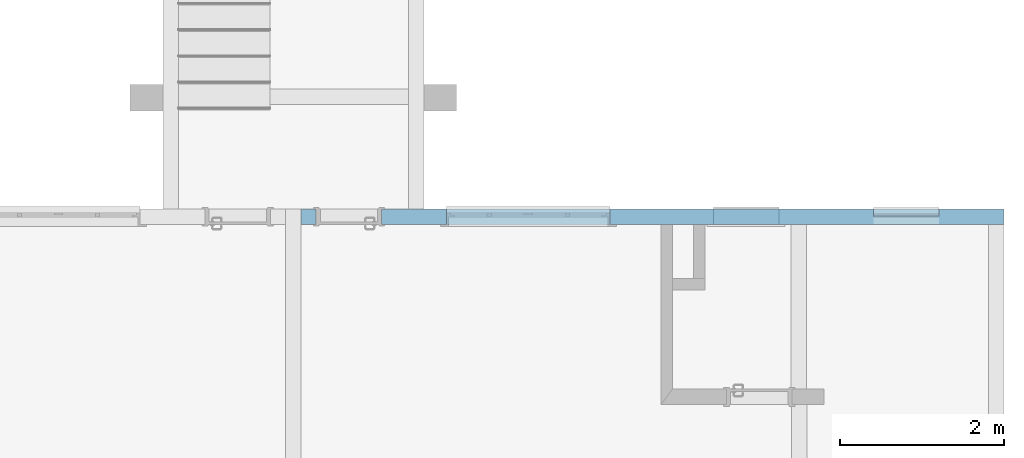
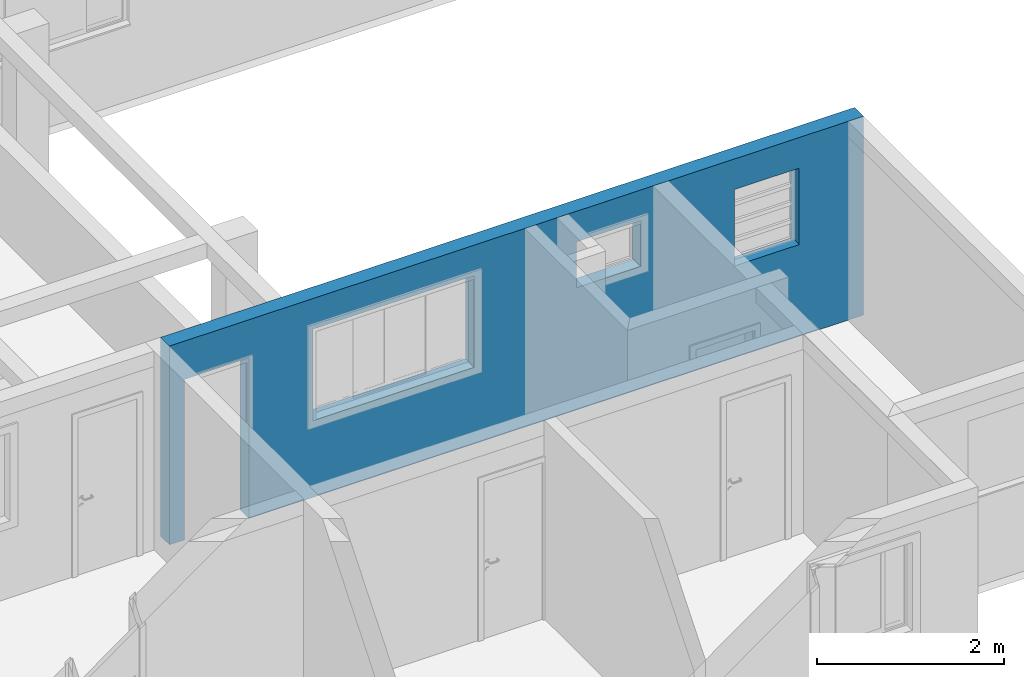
# One storey, part 19 of 43: 1 wall, 4 openings.
"""IFC2X3 building model written with IfcOpenShell, lengths in millimetres."""

from ifc_helpers import new_model, entity, si_unit, converted_unit, derived_unit, money_unit, direction, frame, origin_with_axes, origin_2d_with_axis, place, context, subcontext, project, spatial, polyline, rectangle, outline, extrude, material, layer, layer_set, layer_usage, type_object, element, save


model = new_model("IFC2X3")

# Units and contexts
model_context = context("Model", 3, precision=0.01, world=origin_with_axes(), true_north=direction((0.0, 1.0)))
body_context = subcontext(model_context, "Body", "Model", "MODEL_VIEW")
ifc_project = project(units=[si_unit("LENGTHUNIT", "METRE", prefix="MILLI"), si_unit("AREAUNIT", "SQUARE_METRE"), si_unit("VOLUMEUNIT", "CUBIC_METRE"), converted_unit("PLANEANGLEUNIT", "DEGREE", entity("IfcPlaneAngleMeasure", 0.0174532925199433), si_unit("PLANEANGLEUNIT", "RADIAN"), dimensions=[0, 0, 0, 0, 0, 0, 0]), money_unit("USD"), converted_unit("TIMEUNIT", "Year", entity("IfcTimeMeasure", 31557600.0), si_unit("TIMEUNIT", "SECOND"), dimensions=[0, 0, 1, 0, 0, 0, 0]), si_unit("MASSUNIT", "GRAM", prefix="KILO"), si_unit("THERMODYNAMICTEMPERATUREUNIT", "DEGREE_CELSIUS"), si_unit("LUMINOUSINTENSITYUNIT", "LUMEN"), si_unit("ENERGYUNIT", "JOULE", prefix="MEGA"), derived_unit("THERMALCONDUCTANCEUNIT", [(si_unit("POWERUNIT", "WATT"), 1), (si_unit("LENGTHUNIT", "METRE"), -1), (si_unit("THERMODYNAMICTEMPERATUREUNIT", "KELVIN"), -1)]), derived_unit("SPECIFICHEATCAPACITYUNIT", [(si_unit("ENERGYUNIT", "JOULE"), 1), (si_unit("MASSUNIT", "GRAM", prefix="KILO"), -1), (si_unit("THERMODYNAMICTEMPERATUREUNIT", "KELVIN"), -1)]), derived_unit("MASSDENSITYUNIT", [(si_unit("MASSUNIT", "GRAM", prefix="KILO"), 1), (si_unit("VOLUMEUNIT", "CUBIC_METRE"), -1)])], contexts=[model_context])

# Site, building, storey
site_placement = place(None, origin_with_axes())
site = spatial("IfcSite", under=ifc_project, at=site_placement, Name="Local", CompositionType="ELEMENT")
building_placement = place(site_placement, origin_with_axes())
building = spatial("IfcBuilding", under=site, at=building_placement, Name="Construção", CompositionType="ELEMENT")
storey_placement = place(building_placement, origin_with_axes())
storey = spatial("IfcBuildingStorey", under=building, at=storey_placement, Name="Pavimento Tipo", CompositionType="ELEMENT", Elevation=0.0)

# Wall, openings
ifc_material = material(Name="Concreto - Estrutural")
ifc_layer = layer(ifc_material, 190.0, ventilated="UNKNOWN")
ifc_layer_set = layer_set([ifc_layer], Name="Concreto - Estrutural 190")
ifc_layer_usage = layer_usage(ifc_layer_set, "AXIS2", "NEGATIVE", 0.0)
wall_type = type_object("IfcWallType", Name="Concreto - Estrutural 190", PredefinedType="NOTDEFINED")
wall_placement = place(storey_placement, frame((72476.96486497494, -1757.538479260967, 0.0), z_axis=(0.0, 0.0, 1.0), x_axis=(-1.0, 0.0, 0.0)))
wall = element("IfcWallStandardCase", 1, at=wall_placement, inside=storey, type_object=wall_type, material=ifc_layer_usage, Name="Apartamento 4 - Parede-001", context=body_context, shape_type="SweptSolid", body=[
    extrude(outline(polyline([(0.0, -189.9999999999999), (8584.7651331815, -189.9999999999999), (8584.7651331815, 0.0), (0.0, 0.0), (0.0, -189.9999999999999)])), origin_with_axes(), (0.0, 0.0, 1.0), 2600.0),
])
opening_1_placement = place(wall_placement, frame((1195.000000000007, 0.0, 1200.0), z_axis=(0.0, 0.0, 1.0), x_axis=(1.0, 0.0, 0.0)))
element("IfcOpeningElement", 2, at=opening_1_placement, cuts=wall, Name="Apartamento 4 - J03", context=body_context, shape_type="SweptSolid", body=[
    extrude(rectangle(XDim=800.0000000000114, YDim=1000.0, at=origin_2d_with_axis()), frame((0.0, -139.9999999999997, 500.0), z_axis=(0.0, -1.0, 0.0), x_axis=(-1.0, 0.0, 0.0)), (0.0, 0.0, -1.0), 330.0),
    extrude(rectangle(XDim=800.0000000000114, YDim=1000.0, at=origin_2d_with_axis()), frame((0.0, -139.9999999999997, 500.0), z_axis=(0.0, 1.0, 0.0), x_axis=(-1.0, 0.0, 0.0)), (0.0, 0.0, -1.0), 240.0),
    extrude(rectangle(XDim=800.0000000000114, YDim=30.00000000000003, at=origin_2d_with_axis()), frame((0.0, -105.0, -15.00000000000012), z_axis=(0.0, 1.0, 0.0), x_axis=(-1.0, 0.0, 0.0)), (0.0, 0.0, -1.0), 225.0),
])
opening_2_placement = place(wall_placement, frame((3149.999999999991, 0.0, 1600.0), z_axis=(0.0, 0.0, 1.0), x_axis=(1.0, 0.0, 0.0)))
element("IfcOpeningElement", 3, at=opening_2_placement, cuts=wall, Name="Apartamento 4 - J02", context=body_context, shape_type="SweptSolid", body=[
    extrude(rectangle(XDim=800.0000000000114, YDim=600.0000000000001, at=origin_2d_with_axis()), frame((0.0, 189.9999999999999, 300.0000000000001), z_axis=(0.0, -1.0, 0.0), x_axis=(-1.0, 0.0, 0.0)), (0.0, 0.0, 1.0), 570.0000000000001),
    extrude(rectangle(XDim=800.0000000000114, YDim=30.00000000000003, at=origin_2d_with_axis()), frame((0.0, -155.0000000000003, -15.00000000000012), z_axis=(0.0, 1.0, 0.0), x_axis=(-1.0, 0.0, 0.0)), (0.0, 0.0, -1.0), 225.0),
    extrude(rectangle(XDim=949.9999999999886, YDim=750.0000000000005, at=origin_2d_with_axis()), frame((0.0, 0.0, 300.0000000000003), z_axis=(0.0, -1.0, 0.0), x_axis=(-1.0, 0.0, 0.0)), (0.0, 0.0, -1.0), 190.0),
])
opening_3_placement = place(wall_placement, frame((5810.000000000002, 0.0, 1000.0), z_axis=(0.0, 0.0, 1.0), x_axis=(1.0, 0.0, 0.0)))
element("IfcOpeningElement", 4, at=opening_3_placement, cuts=wall, Name="Apartamento 4 - J01", context=body_context, shape_type="SweptSolid", body=[
    extrude(rectangle(XDim=2000.0, YDim=1200.0, at=origin_2d_with_axis()), frame((0.0, -139.9999999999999, 600.0000000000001), z_axis=(0.0, 1.0, 0.0), x_axis=(1.0, 0.0, 0.0)), (0.0, 0.0, 1.0), 330.0),
    extrude(rectangle(XDim=2000.0, YDim=1200.0, at=origin_2d_with_axis()), frame((0.0, -139.9999999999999, 600.0000000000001), z_axis=(0.0, -1.0, 0.0), x_axis=(1.0, 0.0, 0.0)), (0.0, 0.0, 1.0), 240.0),
    extrude(rectangle(XDim=2150.000000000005, YDim=1350.0, at=origin_2d_with_axis()), frame((0.0, 0.0, 600.0000000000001), z_axis=(0.0, 1.0, 0.0), x_axis=(1.0, 0.0, 0.0)), (0.0, 0.0, 1.0), 240.0),
])
opening_4_placement = place(wall_placement, frame((8000.0, 0.0, 0.0), z_axis=(0.0, 0.0, 1.0), x_axis=(1.0, 0.0, 0.0)))
element("IfcOpeningElement", 5, at=opening_4_placement, cuts=wall, Name="Apartamento 4 - P01", context=body_context, shape_type="SweptSolid", body=[
    extrude(rectangle(XDim=800.0000000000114, YDim=2100.0, at=origin_2d_with_axis()), frame((0.0, 189.9999999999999, 1050.0), z_axis=(0.0, -1.0, 0.0), x_axis=(1.0, 0.0, 0.0)), (0.0, 0.0, 1.0), 570.0000000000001),
    extrude(rectangle(XDim=870.0000000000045, YDim=2135.0, at=origin_2d_with_axis()), frame((0.0, 0.0, 1067.5), z_axis=(0.0, -1.0, 0.0), x_axis=(1.0, 0.0, 0.0)), (0.0, 0.0, -1.0), 190.0),
    extrude(rectangle(XDim=870.0000000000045, YDim=2135.0, at=origin_2d_with_axis()), frame((0.0, -189.9999999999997, 1067.5), z_axis=(0.0, 1.0, 0.0), x_axis=(1.0, 0.0, 0.0)), (0.0, 0.0, -1.0), 190.0),
])

save(model, "model.ifc")
